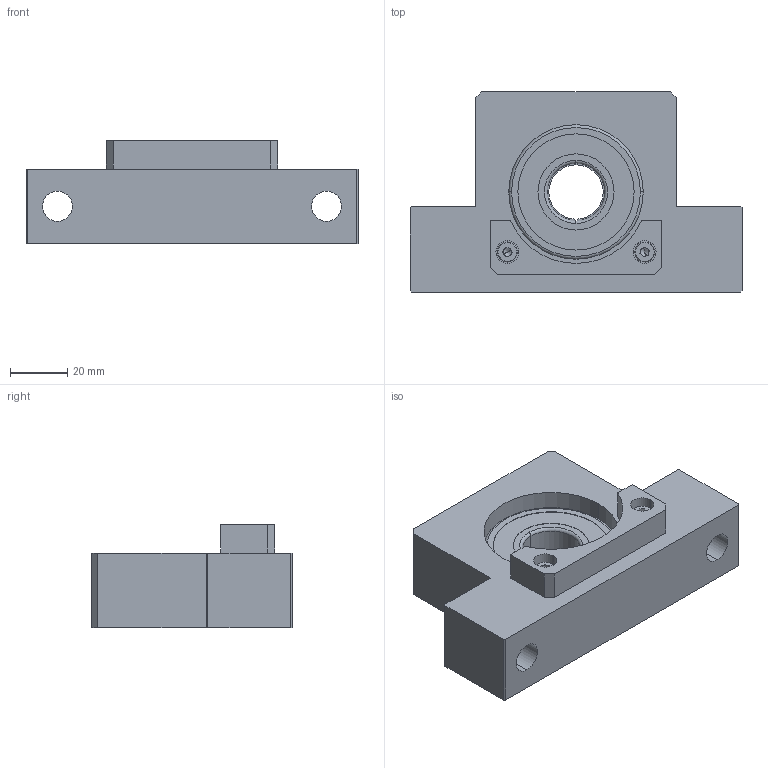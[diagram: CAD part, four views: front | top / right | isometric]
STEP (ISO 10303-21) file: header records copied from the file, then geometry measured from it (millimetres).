
FILE_DESCRIPTION (( 'STEP AP214' ), '1' );
FILE_NAME ('F-SBU-20.60-D.STEP', '2023-04-10T09:34:25', ( '' ), ( '' ), 'SwSTEP 2.0', 'SolidWorks 2021', '' );
FILE_SCHEMA (( 'AUTOMOTIVE_DESIGN' ));
Length unit declared in the file: millimetre
Products named in the file (11): F-SBU-20.60-D BODY; 6204ZZ Shield1; F-SBU-20.60-D; 6204ZZ Inner ring; 6204ZZ Ball; SBU-20-DAMPER; 4-10; 6204ZZ Shield2; 6204ZZ Outer ring; STWN20; 6204ZZ
Assembly tree (23 placements, depth 3):
  F-SBU-20.60-D
    F-SBU-20.60-D BODY
    STWN20
    6204ZZ
      6204ZZ Shield2
      6204ZZ Ball  x13
      6204ZZ Inner ring
      6204ZZ Shield1
      6204ZZ Outer ring
    SBU-20-DAMPER
    4-10  x2
Bounding box: 116 x 70 x 36 mm (x, y, z)
Volume: 133248.6 mm3; surface area: 41428.3 mm2
Topology: 22 solids, 22 shells, 205 faces, 496 edges, 313 vertices
Faces by surface type: plane 75, cylinder 66, sphere 26, cone 20, torus 18
Entity records: 4931 total; most frequent: DIRECTION 873, CARTESIAN_POINT 741, ORIENTED_EDGE 686, AXIS2_PLACEMENT_3D 349, EDGE_CURVE 343, VERTEX_POINT 217, EDGE_LOOP 186, LINE 175
